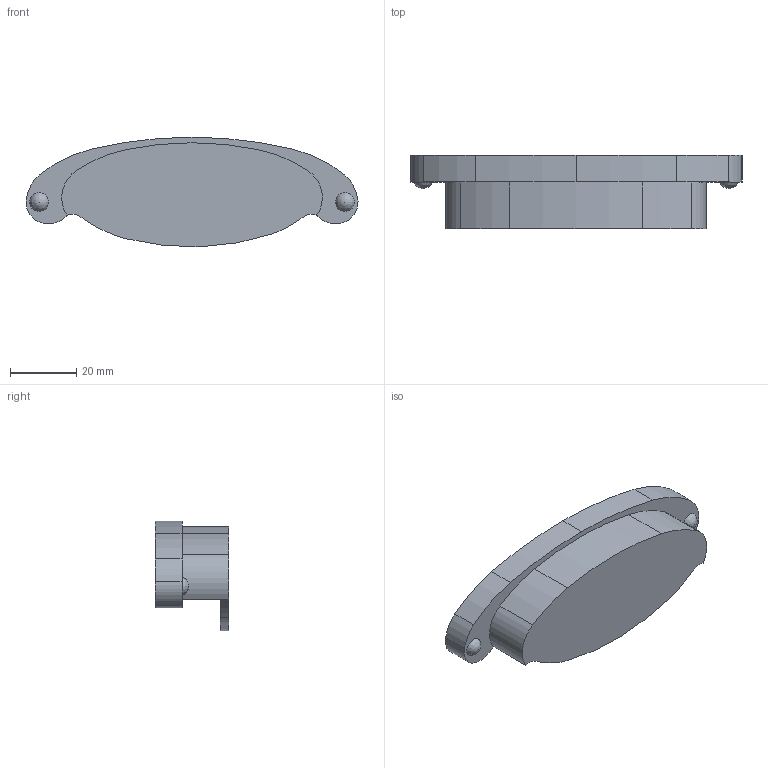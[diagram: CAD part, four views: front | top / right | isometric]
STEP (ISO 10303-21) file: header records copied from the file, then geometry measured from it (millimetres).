
FILE_DESCRIPTION( ( 'STEP AP214' ), '1' );
FILE_NAME( 'C:/Users/swati/Desktop/3D_check/QC2/New folder/9112655/9112655.stp', ' ', ( ' ' ), ( ' ' ), 'PSStep 15.0.47', 'PARTsolutions', ' ' );
FILE_SCHEMA( ( 'AUTOMOTIVE_DESIGN { 1 0 10303 214 1 1 1 1 }' ) );
Length unit declared in the file: millimetre
Products named in the file (2): 95 ; _
Assembly tree (1 placements, depth 2):
  95 
    _
Bounding box: 99.86 x 22 x 32.95 mm (x, y, z)
Volume: 14635.7 mm3; surface area: 10420.7 mm2
Topology: 1 solids, 1 shells, 44 faces, 120 edges, 80 vertices
Faces by surface type: cylinder 31, plane 11, bspline 2
Full cylindrical faces by diameter (mm): 4 x2
Entity records: 1838 total; most frequent: CARTESIAN_POINT 294, DIRECTION 270, ORIENTED_EDGE 228, EDGE_CURVE 114, AXIS2_PLACEMENT_3D 112, VERTEX_POINT 80, CIRCLE 68, EDGE_LOOP 50
